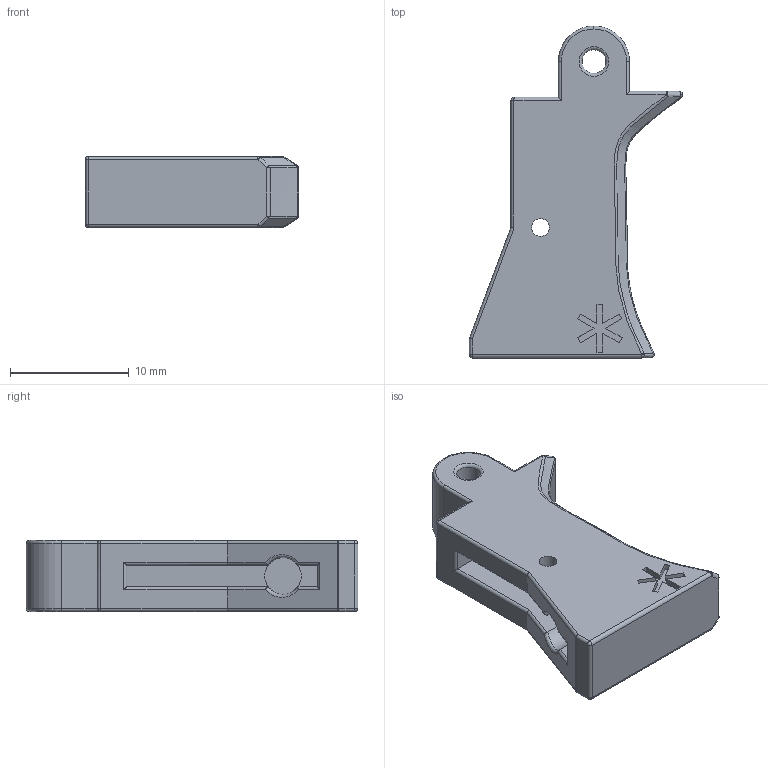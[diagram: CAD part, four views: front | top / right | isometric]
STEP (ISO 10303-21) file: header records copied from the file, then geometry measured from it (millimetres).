
FILE_DESCRIPTION(('HOOPS Exchange Step'),'2;1');
FILE_NAME('/private/var/mobile/Containers/Data/Application/AC0B3C56-7726-4EBE-9F3A-04F14AA1CBEF/tmp/export/temp_export','2020-12-20T21:01:32+19:00',('mobile'),('Shapr3D Limited'),'HOOPS Exchange 2020.2','Shapr3D','Authorized');
FILE_SCHEMA( ('AP203_CONFIGURATION_CONTROLLED_3D_DESIGN_OF_MECHANICAL_PARTS_AND_ASSEMBLIES_MIM_LF') );
Length unit declared in the file: millimetre
Products named in the file (5): 0; /private/var/mobile/Containers/Data/Application/AC0B3C56-7726-4EBE-9F3A-04F14AA1CBEF/tmp/CC46C01C-16ED-48DF-A70E-68239DD8D809.tmp
Assembly tree (4 placements, depth 2):
  /private/var/mobile/Containers/Data/Application/AC0B3C56-7726-4EBE-9F3A-04F14AA1CBEF/tmp/CC46C01C-16ED-48DF-A70E-68239DD8D809.tmp
    0
    0
    0
    0
Bounding box: 17.98 x 28 x 6 mm (x, y, z)
Volume: 1451.9 mm3; surface area: 1368.2 mm2
Topology: 1 solids, 1 shells, 133 faces, 347 edges, 206 vertices
Faces by surface type: plane 57, cylinder 35, sphere 18, bspline 15, torus 8
Full cylindrical faces by diameter (mm): 1.5 x2, 2 x1, 3.1 x1
Entity records: 7086 total; most frequent: CARTESIAN_POINT 3793, DIRECTION 677, ORIENTED_EDGE 670, EDGE_CURVE 335, AXIS2_PLACEMENT_3D 243, VERTEX_POINT 206, VECTOR 191, LINE 191
